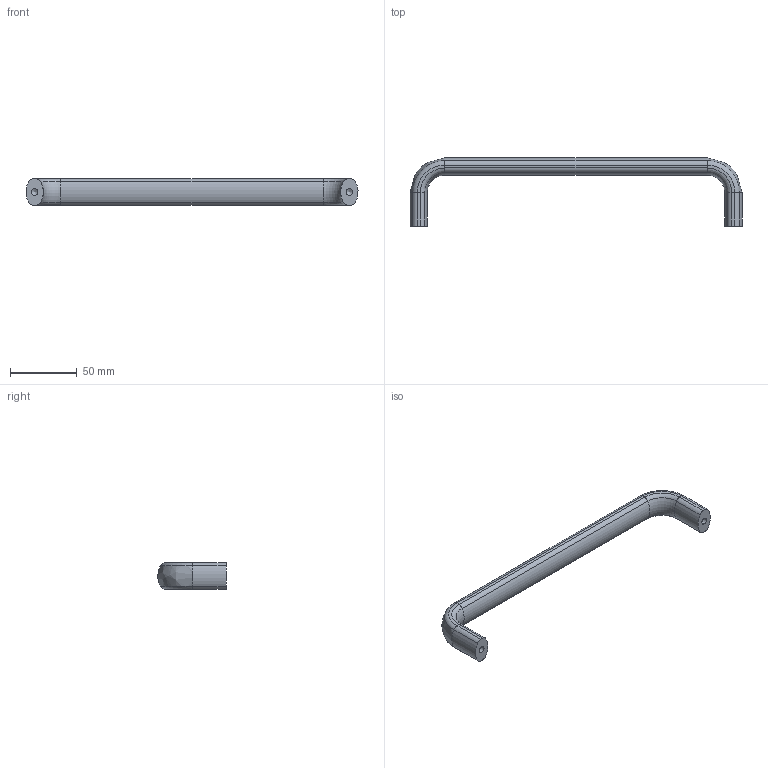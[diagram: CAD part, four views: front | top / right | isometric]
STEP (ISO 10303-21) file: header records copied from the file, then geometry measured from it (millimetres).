
FILE_DESCRIPTION( ( 'STEP AP203' ), '1' );
FILE_NAME( 'C:/Temp/Ganter_Step_05_03_2020/data/1_2/gn_565/Cabinet ''''U'''' handle GN 565-20-235-SW.stp', '2020-03-05T10:08:50', ( 'License CC BY-ND 4.0' ), ( 'CADENAS' ), ' ', 'PARTsolutions', ' ' );
FILE_SCHEMA( ( 'CONFIG_CONTROL_DESIGN' ) );
Length unit declared in the file: millimetre
Products named in the file (1): _Cabinet ''U'' handle GN 565-20-235-SW
Bounding box: 247.91 x 50.97 x 19.99 mm (x, y, z)
Volume: 64002.6 mm3; surface area: 17178.4 mm2
Topology: 1 solids, 1 shells, 53 faces, 128 edges, 77 vertices
Faces by surface type: cylinder 26, torus 14, plane 9, bspline 2, cone 2
Full cylindrical faces by diameter (mm): 4.917 x2
Entity records: 1640 total; most frequent: CARTESIAN_POINT 337, DIRECTION 304, ORIENTED_EDGE 244, AXIS2_PLACEMENT_3D 140, EDGE_CURVE 122, CIRCLE 88, VERTEX_POINT 77, EDGE_LOOP 57
